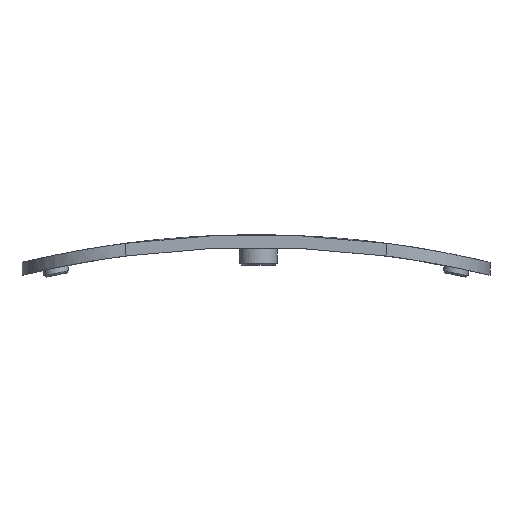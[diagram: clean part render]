
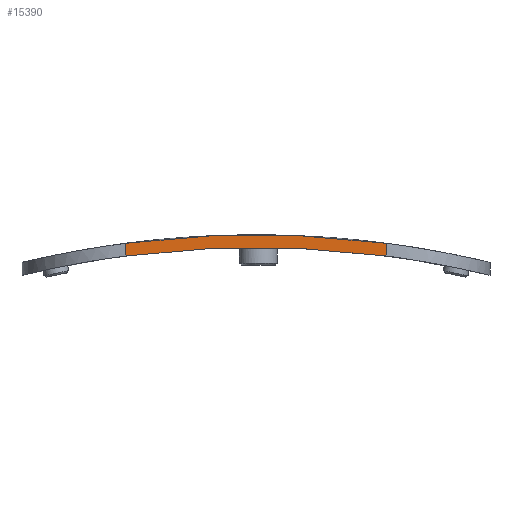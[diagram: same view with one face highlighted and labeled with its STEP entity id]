
A CAD part, front view. The second image highlights one B-rep face of the part: STEP entity #15390.
In plain terms, the highlighted planar face has unit normal (0, -1, 0).
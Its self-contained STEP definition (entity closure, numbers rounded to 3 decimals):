
#71 = CYLINDRICAL_SURFACE('',#72,111.371);
#72 = AXIS2_PLACEMENT_3D('',#73,#74,#75);
#73 = CARTESIAN_POINT('',(53.19,0.,-111.371));
#74 = DIRECTION('',(0.,-1.,0.));
#75 = DIRECTION('',(1.,0.,0.));
#98 = CYLINDRICAL_SURFACE('',#99,11.5);
#99 = AXIS2_PLACEMENT_3D('',#100,#101,#102);
#100 = CARTESIAN_POINT('',(38.74,7.02,2.));
#101 = DIRECTION('',(0.,0.,1.));
#102 = DIRECTION('',(1.,0.,0.));
#123 = CYLINDRICAL_SURFACE('',#124,109.971);
#124 = AXIS2_PLACEMENT_3D('',#125,#126,#127);
#125 = CARTESIAN_POINT('',(53.19,0.,-111.371));
#126 = DIRECTION('',(0.,-1.,0.));
#127 = DIRECTION('',(1.,0.,0.));
#280 = VERTEX_POINT('',#281);
#281 = CARTESIAN_POINT('',(38.74,-4.48,-2.353));
#407 = EDGE_CURVE('',#280,#408,#410,.T.);
#408 = VERTEX_POINT('',#409);
#409 = CARTESIAN_POINT('',(67.64,-4.48,-2.353));
#410 = SURFACE_CURVE('',#411,(#416,#423),.PCURVE_S1.);
#411 = CIRCLE('',#412,109.971);
#412 = AXIS2_PLACEMENT_3D('',#413,#414,#415);
#413 = CARTESIAN_POINT('',(53.19,-4.48,-111.371));
#414 = DIRECTION('',(-0.,1.,0.));
#415 = DIRECTION('',(1.,0.,0.));
#416 = PCURVE('',#123,#417);
#417 = DEFINITIONAL_REPRESENTATION('',(#418),#422);
#418 = LINE('',#419,#420);
#419 = CARTESIAN_POINT('',(6.283,4.48));
#420 = VECTOR('',#421,1.);
#421 = DIRECTION('',(-1.,-0.));
#422 = ( GEOMETRIC_REPRESENTATION_CONTEXT(2) 
PARAMETRIC_REPRESENTATION_CONTEXT() REPRESENTATION_CONTEXT('2D SPACE',''
  ) );
#423 = PCURVE('',#424,#429);
#424 = PLANE('',#425);
#425 = AXIS2_PLACEMENT_3D('',#426,#427,#428);
#426 = CARTESIAN_POINT('',(38.74,-4.48,2.));
#427 = DIRECTION('',(0.,-1.,0.));
#428 = DIRECTION('',(1.,0.,0.));
#429 = DEFINITIONAL_REPRESENTATION('',(#430),#438);
#430 = ( BOUNDED_CURVE() B_SPLINE_CURVE(2,(#431,#432,#433,#434,#435,#436
,#437),.UNSPECIFIED.,.T.,.F.) B_SPLINE_CURVE_WITH_KNOTS((1,2,2,2,2,1),(
    -2.094,0.,2.094,4.189,6.283,
8.378),.UNSPECIFIED.) CURVE() GEOMETRIC_REPRESENTATION_ITEM() 
RATIONAL_B_SPLINE_CURVE((1.,0.5,1.,0.5,1.,0.5,1.)) REPRESENTATION_ITEM(
  '') );
#431 = CARTESIAN_POINT('',(124.421,-113.371));
#432 = CARTESIAN_POINT('',(124.421,-303.848));
#433 = CARTESIAN_POINT('',(-40.536,-208.609));
#434 = CARTESIAN_POINT('',(-205.493,-113.371));
#435 = CARTESIAN_POINT('',(-40.536,-18.133));
#436 = CARTESIAN_POINT('',(124.421,77.105));
#437 = CARTESIAN_POINT('',(124.421,-113.371));
#438 = ( GEOMETRIC_REPRESENTATION_CONTEXT(2) 
PARAMETRIC_REPRESENTATION_CONTEXT() REPRESENTATION_CONTEXT('2D SPACE',''
  ) );
#517 = CYLINDRICAL_SURFACE('',#518,11.5);
#518 = AXIS2_PLACEMENT_3D('',#519,#520,#521);
#519 = CARTESIAN_POINT('',(67.64,7.02,2.));
#520 = DIRECTION('',(0.,0.,1.));
#521 = DIRECTION('',(1.,0.,0.));
#9213 = VERTEX_POINT('',#9214);
#9214 = CARTESIAN_POINT('',(38.74,-4.48,-0.941));
#9342 = EDGE_CURVE('',#9213,#280,#9343,.T.);
#9343 = SURFACE_CURVE('',#9344,(#9348,#9355),.PCURVE_S1.);
#9344 = LINE('',#9345,#9346);
#9345 = CARTESIAN_POINT('',(38.74,-4.48,2.));
#9346 = VECTOR('',#9347,1.);
#9347 = DIRECTION('',(-0.,-0.,-1.));
#9348 = PCURVE('',#98,#9349);
#9349 = DEFINITIONAL_REPRESENTATION('',(#9350),#9354);
#9350 = LINE('',#9351,#9352);
#9351 = CARTESIAN_POINT('',(4.712,0.));
#9352 = VECTOR('',#9353,1.);
#9353 = DIRECTION('',(0.,-1.));
#9354 = ( GEOMETRIC_REPRESENTATION_CONTEXT(2) 
PARAMETRIC_REPRESENTATION_CONTEXT() REPRESENTATION_CONTEXT('2D SPACE',''
  ) );
#9355 = PCURVE('',#424,#9356);
#9356 = DEFINITIONAL_REPRESENTATION('',(#9357),#9361);
#9357 = LINE('',#9358,#9359);
#9358 = CARTESIAN_POINT('',(0.,0.));
#9359 = VECTOR('',#9360,1.);
#9360 = DIRECTION('',(0.,-1.));
#9361 = ( GEOMETRIC_REPRESENTATION_CONTEXT(2) 
PARAMETRIC_REPRESENTATION_CONTEXT() REPRESENTATION_CONTEXT('2D SPACE',''
  ) );
#9367 = EDGE_CURVE('',#9213,#9368,#9370,.T.);
#9368 = VERTEX_POINT('',#9369);
#9369 = CARTESIAN_POINT('',(67.64,-4.48,-0.941));
#9370 = SURFACE_CURVE('',#9371,(#9376,#9383),.PCURVE_S1.);
#9371 = CIRCLE('',#9372,111.371);
#9372 = AXIS2_PLACEMENT_3D('',#9373,#9374,#9375);
#9373 = CARTESIAN_POINT('',(53.19,-4.48,-111.371));
#9374 = DIRECTION('',(-0.,1.,0.));
#9375 = DIRECTION('',(1.,0.,0.));
#9376 = PCURVE('',#71,#9377);
#9377 = DEFINITIONAL_REPRESENTATION('',(#9378),#9382);
#9378 = LINE('',#9379,#9380);
#9379 = CARTESIAN_POINT('',(6.283,4.48));
#9380 = VECTOR('',#9381,1.);
#9381 = DIRECTION('',(-1.,-0.));
#9382 = ( GEOMETRIC_REPRESENTATION_CONTEXT(2) 
PARAMETRIC_REPRESENTATION_CONTEXT() REPRESENTATION_CONTEXT('2D SPACE',''
  ) );
#9383 = PCURVE('',#424,#9384);
#9384 = DEFINITIONAL_REPRESENTATION('',(#9385),#9393);
#9385 = ( BOUNDED_CURVE() B_SPLINE_CURVE(2,(#9386,#9387,#9388,#9389,
#9390,#9391,#9392),.UNSPECIFIED.,.T.,.F.) B_SPLINE_CURVE_WITH_KNOTS((1,2
    ,2,2,2,1),(-2.094,0.,2.094,4.189,
6.283,8.378),.UNSPECIFIED.) CURVE() 
GEOMETRIC_REPRESENTATION_ITEM() RATIONAL_B_SPLINE_CURVE((1.,0.5,1.,0.5,
1.,0.5,1.)) REPRESENTATION_ITEM('') );
#9386 = CARTESIAN_POINT('',(125.821,-113.371));
#9387 = CARTESIAN_POINT('',(125.821,-306.272));
#9388 = CARTESIAN_POINT('',(-41.236,-209.822));
#9389 = CARTESIAN_POINT('',(-208.293,-113.371));
#9390 = CARTESIAN_POINT('',(-41.236,-16.921));
#9391 = CARTESIAN_POINT('',(125.821,79.53));
#9392 = CARTESIAN_POINT('',(125.821,-113.371));
#9393 = ( GEOMETRIC_REPRESENTATION_CONTEXT(2) 
PARAMETRIC_REPRESENTATION_CONTEXT() REPRESENTATION_CONTEXT('2D SPACE',''
  ) );
#15390 = ADVANCED_FACE('',(#15391),#424,.T.);
#15391 = FACE_BOUND('',#15392,.T.);
#15392 = EDGE_LOOP('',(#15393,#15394,#15395,#15396));
#15393 = ORIENTED_EDGE('',*,*,#9367,.F.);
#15394 = ORIENTED_EDGE('',*,*,#9342,.T.);
#15395 = ORIENTED_EDGE('',*,*,#407,.T.);
#15396 = ORIENTED_EDGE('',*,*,#15397,.F.);
#15397 = EDGE_CURVE('',#9368,#408,#15398,.T.);
#15398 = SURFACE_CURVE('',#15399,(#15403,#15410),.PCURVE_S1.);
#15399 = LINE('',#15400,#15401);
#15400 = CARTESIAN_POINT('',(67.64,-4.48,2.));
#15401 = VECTOR('',#15402,1.);
#15402 = DIRECTION('',(-0.,-0.,-1.));
#15403 = PCURVE('',#424,#15404);
#15404 = DEFINITIONAL_REPRESENTATION('',(#15405),#15409);
#15405 = LINE('',#15406,#15407);
#15406 = CARTESIAN_POINT('',(28.9,0.));
#15407 = VECTOR('',#15408,1.);
#15408 = DIRECTION('',(0.,-1.));
#15409 = ( GEOMETRIC_REPRESENTATION_CONTEXT(2) 
PARAMETRIC_REPRESENTATION_CONTEXT() REPRESENTATION_CONTEXT('2D SPACE',''
  ) );
#15410 = PCURVE('',#517,#15411);
#15411 = DEFINITIONAL_REPRESENTATION('',(#15412),#15416);
#15412 = LINE('',#15413,#15414);
#15413 = CARTESIAN_POINT('',(4.712,0.));
#15414 = VECTOR('',#15415,1.);
#15415 = DIRECTION('',(0.,-1.));
#15416 = ( GEOMETRIC_REPRESENTATION_CONTEXT(2) 
PARAMETRIC_REPRESENTATION_CONTEXT() REPRESENTATION_CONTEXT('2D SPACE',''
  ) );
